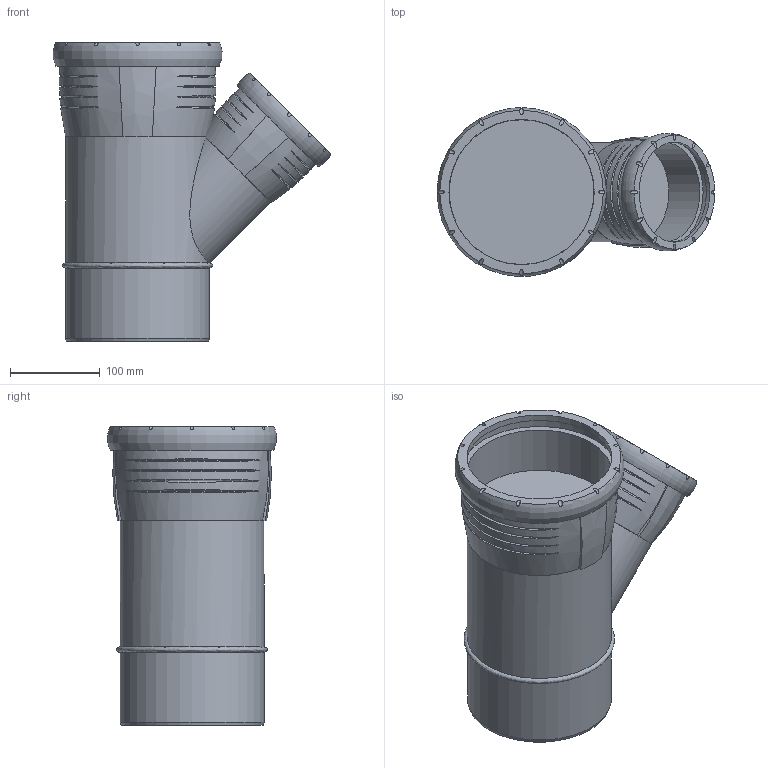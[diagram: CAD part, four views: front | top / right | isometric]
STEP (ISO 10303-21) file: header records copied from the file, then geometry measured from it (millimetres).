
FILE_DESCRIPTION(/* description */ (''),/* implementation_level */ '2;1');
FILE_NAME(/* name */ 'H:\Geberit-Teile\Export\Abzweig PP\stp\393735.stp',/* time_stamp */ '2017-02-13T13:20:58+01:00',/* author */ ('seihe2'),/* organization */ (''),/* preprocessor_version */ 'ST-DEVELOPER v15.2',/* originating_system */ 'Autodesk Inventor 2014',/* authorisation */ '');
FILE_SCHEMA (('AUTOMOTIVE_DESIGN { 1 0 10303 214 3 1 1 }'));
Length unit declared in the file: millimetre
Products named in the file (1): 393735
Bounding box: 309.18 x 188.24 x 332.87 mm (x, y, z)
Volume: 5322513.9 mm3; surface area: 475346.1 mm2
Topology: 5 solids, 5 shells, 107 faces, 249 edges, 176 vertices
Faces by surface type: bspline 45, cylinder 40, plane 19, torus 2, cone 1
Full cylindrical faces by diameter (mm): 90 x1, 111 x1, 111.3 x1, 121.5 x1, 126.565 x1, 148.25 x1, 160.25 x3, 161.2 x1, 161.7 x1, 174.9 x1
Entity records: 7653 total; most frequent: CARTESIAN_POINT 5480, ORIENTED_EDGE 450, DIRECTION 325, EDGE_CURVE 224, VERTEX_POINT 167, AXIS2_PLACEMENT_3D 162, EDGE_LOOP 149, B_SPLINE_CURVE_WITH_KNOTS 123
